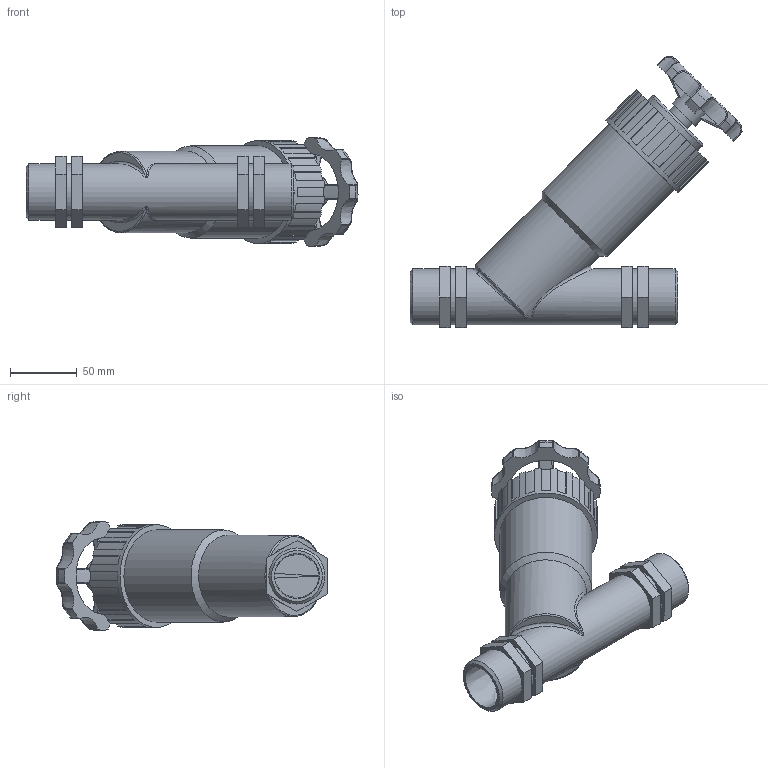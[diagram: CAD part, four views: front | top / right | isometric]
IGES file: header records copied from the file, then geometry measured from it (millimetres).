
Global section: file name: 03047155_030471550A_03049155.ipt; native system: Autodesk Inventor 2015; preprocessor: unknown; author: KIM; date: 20170619.121321; units: millimetre
Bounding box: 248.02 x 202.87 x 80.97 mm (x, y, z)
Volume: 735699.2 mm3; surface area: 105384.7 mm2
Topology: 1 solids, 2 shells, 226 faces, 607 edges, 392 vertices
Faces by surface type: plane 111, cylinder 56, bspline 30, revolution 22, cone 7
Full cylindrical faces by diameter (mm): 19.44 x1, 24.3 x1, 41.91 x5, 53.46 x1, 60.75 x1, 68.85 x1, 76.95 x1
